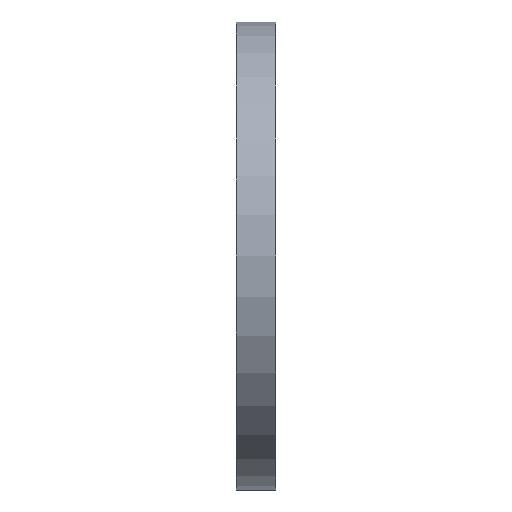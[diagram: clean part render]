
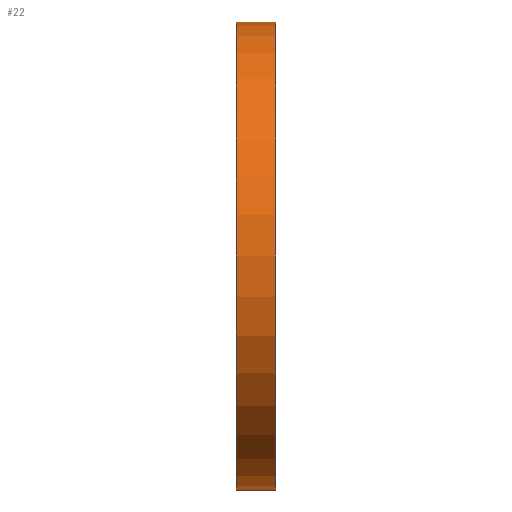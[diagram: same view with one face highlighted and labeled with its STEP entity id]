
A CAD part, left-side view. The second image highlights one B-rep face of the part: STEP entity #22.
In plain terms, the highlighted cylindrical face has radius 19.05 mm (diameter 38.1 mm), a partial arc.
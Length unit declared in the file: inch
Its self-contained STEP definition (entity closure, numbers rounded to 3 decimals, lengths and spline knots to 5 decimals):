
#17 = ORIENTED_EDGE ( 'NONE', *, *, #1120, .T. ) ;
#18 = ORIENTED_EDGE ( 'NONE', *, *, #984, .F. ) ;
#19 = ORIENTED_EDGE ( 'NONE', *, *, #987, .T. ) ;
#20 = EDGE_LOOP ( 'NONE', ( #18, #23, #19, #17 ) ) ;
#22 = ADVANCED_FACE ( 'NONE', ( #206 ), #237, .T. ) ;
#23 = ORIENTED_EDGE ( 'NONE', *, *, #123, .F. ) ;
#123 = EDGE_CURVE ( 'NONE', #977, #975, #458, .T. ) ;
#206 = FACE_OUTER_BOUND ( 'NONE', #20, .T. ) ;
#234 = DIRECTION ( 'NONE',  ( 0., 0., -1. ) ) ;
#235 = DIRECTION ( 'NONE',  ( 0., -1., 0. ) ) ;
#236 = AXIS2_PLACEMENT_3D ( 'NONE', #239, #235, #234 ) ;
#237 = CYLINDRICAL_SURFACE ( 'NONE', #236, 0.75 ) ;
#239 = CARTESIAN_POINT ( 'NONE',  ( 0., 0.125, 0. ) ) ;
#454 = DIRECTION ( 'NONE',  ( 0., 0., 1. ) ) ;
#455 = DIRECTION ( 'NONE',  ( 0., 1., 0. ) ) ;
#456 = CARTESIAN_POINT ( 'NONE',  ( 0., 0.125, 0. ) ) ;
#457 = AXIS2_PLACEMENT_3D ( 'NONE', #456, #455, #454 ) ;
#458 = CIRCLE ( 'NONE', #457, 0.75 ) ;
#618 = CARTESIAN_POINT ( 'NONE',  ( 0., 0.125, 0.75 ) ) ;
#637 = CARTESIAN_POINT ( 'NONE',  ( 0., 0., 0.75 ) ) ;
#654 = DIRECTION ( 'NONE',  ( 0., -1., 0. ) ) ;
#655 = VECTOR ( 'NONE', #654, 39.37008 ) ;
#656 = CARTESIAN_POINT ( 'NONE',  ( 0., 0.125, 0.75 ) ) ;
#657 = LINE ( 'NONE', #656, #655 ) ;
#658 = CARTESIAN_POINT ( 'NONE',  ( 0., 0., -0.75 ) ) ;
#683 = CARTESIAN_POINT ( 'NONE',  ( 0., 0.125, -0.75 ) ) ;
#713 = DIRECTION ( 'NONE',  ( 0., -1., 0. ) ) ;
#714 = VECTOR ( 'NONE', #713, 39.37008 ) ;
#715 = CARTESIAN_POINT ( 'NONE',  ( 0., 0.125, -0.75 ) ) ;
#716 = LINE ( 'NONE', #715, #714 ) ;
#892 = DIRECTION ( 'NONE',  ( 0., 0., 1. ) ) ;
#893 = DIRECTION ( 'NONE',  ( 0., 1., 0. ) ) ;
#894 = CARTESIAN_POINT ( 'NONE',  ( 0., 0., 0. ) ) ;
#895 = AXIS2_PLACEMENT_3D ( 'NONE', #894, #893, #892 ) ;
#900 = CIRCLE ( 'NONE', #895, 0.75 ) ;
#962 = VERTEX_POINT ( 'NONE', #637 ) ;
#975 = VERTEX_POINT ( 'NONE', #618 ) ;
#977 = VERTEX_POINT ( 'NONE', #683 ) ;
#983 = VERTEX_POINT ( 'NONE', #658 ) ;
#984 = EDGE_CURVE ( 'NONE', #975, #962, #657, .T. ) ;
#987 = EDGE_CURVE ( 'NONE', #977, #983, #716, .T. ) ;
#1120 = EDGE_CURVE ( 'NONE', #983, #962, #900, .T. ) ;
